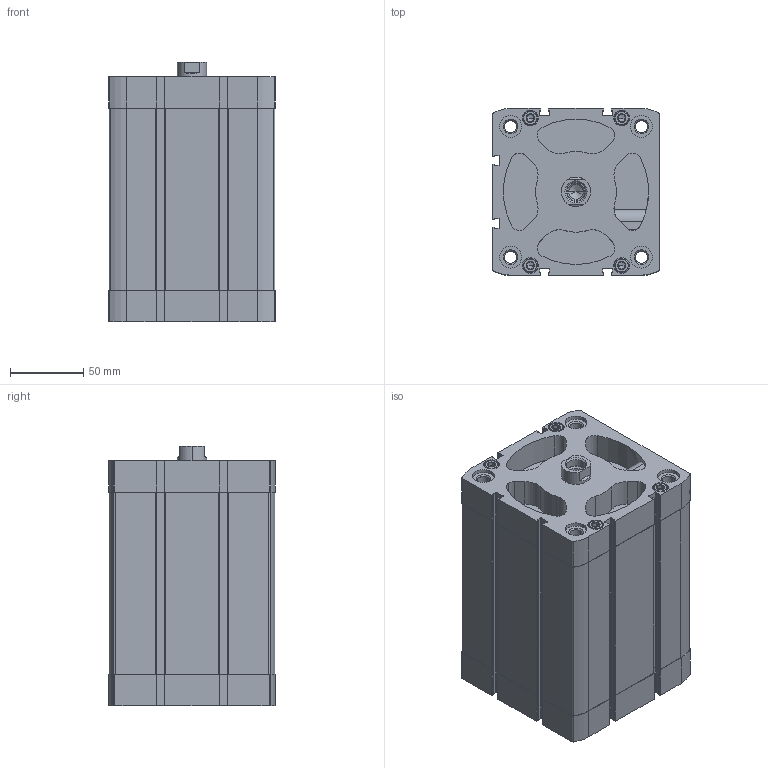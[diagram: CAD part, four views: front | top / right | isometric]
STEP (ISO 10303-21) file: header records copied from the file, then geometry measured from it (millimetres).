
FILE_DESCRIPTION (( 'STEP AP203' ), '1' );
FILE_NAME ('CCN100-100F.STEP', '2020-06-05T18:14:53', ( '' ), ( '' ), 'SwSTEP 2.0', 'SolidWorks 2019', '' );
FILE_SCHEMA (( 'CONFIG_CONTROL_DESIGN' ));
Length unit declared in the file: millimetre
Products named in the file (1): CCN100-100F
Bounding box: 113.5 x 113.5 x 176.8 mm (x, y, z)
Volume: 1155544.5 mm3; surface area: 241158.1 mm2
Topology: 2 solids, 2 shells, 628 faces, 1631 edges, 1043 vertices
Faces by surface type: plane 284, cylinder 270, cone 74
Entity records: 20342 total; most frequent: CARTESIAN_POINT 4507, DIRECTION 3451, ORIENTED_EDGE 3226, EDGE_CURVE 1613, AXIS2_PLACEMENT_3D 1281, VERTEX_POINT 1043, VECTOR 889, LINE 889
